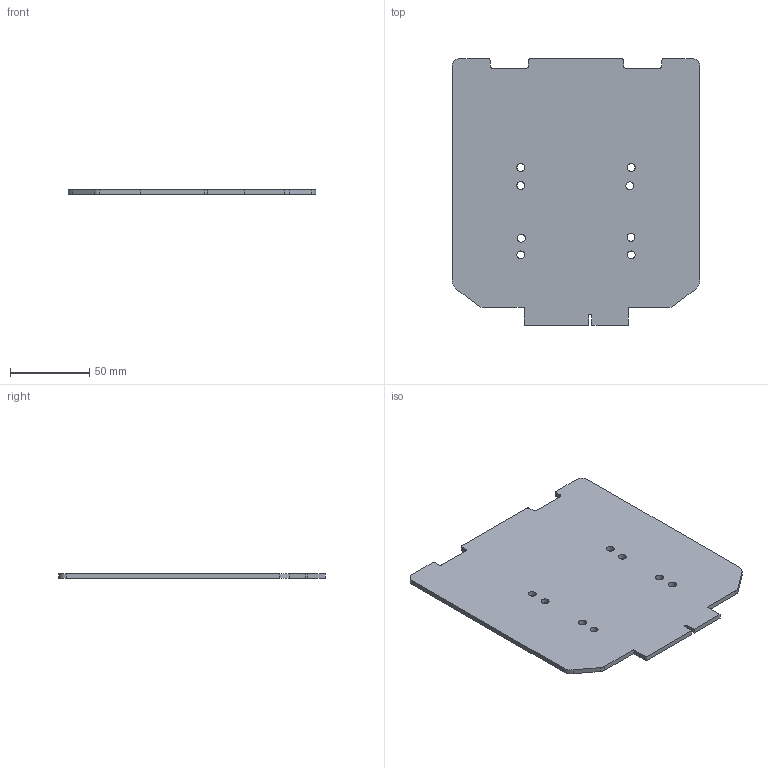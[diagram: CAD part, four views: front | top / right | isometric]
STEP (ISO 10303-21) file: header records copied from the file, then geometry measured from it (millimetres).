
FILE_DESCRIPTION(('Open CASCADE Model'),'2;1');
FILE_NAME('Open CASCADE Shape Model','2026-10-01T15:23:51',('Author'),( 'Open CASCADE'),'Open CASCADE STEP processor 7.9','Open CASCADE 7.9' ,'Unknown');
FILE_SCHEMA(('AUTOMOTIVE_DESIGN { 1 0 10303 214 1 1 1 1 }'));
Length unit declared in the file: millimetre
Products named in the file (1): Open CASCADE STEP translator 7.9 9
Bounding box: 156 x 167.78 x 3 mm (x, y, z)
Volume: 73312.8 mm3; surface area: 51221.9 mm2
Topology: 1 solids, 1 shells, 46 faces, 132 edges, 88 vertices
Faces by surface type: cylinder 23, plane 23
Full cylindrical faces by diameter (mm): 5 x8
Entity records: 3328 total; most frequent: CARTESIAN_POINT 627, DIRECTION 520, LINE 304, VECTOR 304, ORIENTED_EDGE 264, PCURVE 264, DEFINITIONAL_REPRESENTATION 264, EDGE_CURVE 132
